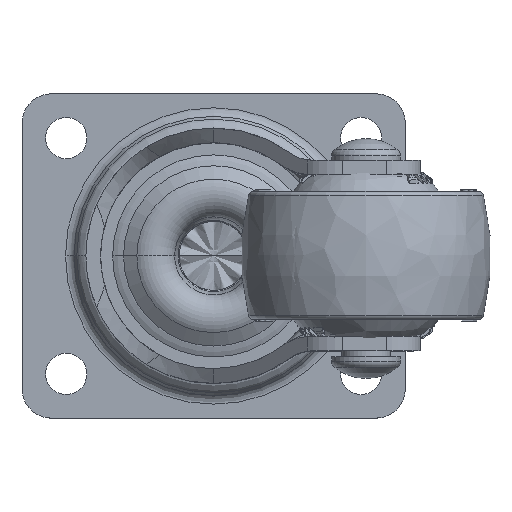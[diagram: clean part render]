
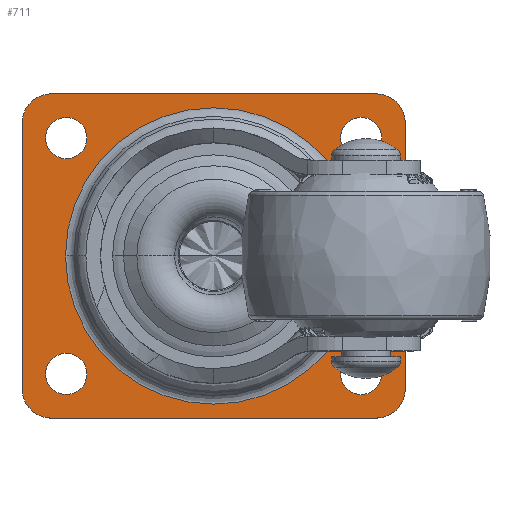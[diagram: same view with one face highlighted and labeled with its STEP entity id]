
A CAD part, top view. The second image highlights one B-rep face of the part: STEP entity #711.
In plain terms, the highlighted planar face has unit normal (0, 0, 1).
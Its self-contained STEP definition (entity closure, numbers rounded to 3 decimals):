
#2=CARTESIAN_POINT('',(15.,-12.,-2.5));
#3=DIRECTION('',(0.,0.,-1.));
#4=DIRECTION('',(1.,0.,0.));
#5=AXIS2_PLACEMENT_3D('',#2,#3,#4);
#7=CARTESIAN_POINT('',(15.,-12.,-2.5));
#8=DIRECTION('',(0.,0.,-1.));
#9=DIRECTION('',(-1.,0.,0.));
#10=AXIS2_PLACEMENT_3D('',#7,#8,#9);
#12=CARTESIAN_POINT('',(15.,12.,-2.5));
#13=DIRECTION('',(0.,0.,-1.));
#14=DIRECTION('',(-1.,0.,0.));
#15=AXIS2_PLACEMENT_3D('',#12,#13,#14);
#17=CARTESIAN_POINT('',(15.,12.,-2.5));
#18=DIRECTION('',(0.,0.,-1.));
#19=DIRECTION('',(1.,0.,0.));
#20=AXIS2_PLACEMENT_3D('',#17,#18,#19);
#22=CARTESIAN_POINT('',(-15.,-12.,-2.5));
#23=DIRECTION('',(0.,0.,-1.));
#24=DIRECTION('',(-1.,0.,0.));
#25=AXIS2_PLACEMENT_3D('',#22,#23,#24);
#27=CARTESIAN_POINT('',(-15.,-12.,-2.5));
#28=DIRECTION('',(0.,0.,-1.));
#29=DIRECTION('',(1.,0.,0.));
#30=AXIS2_PLACEMENT_3D('',#27,#28,#29);
#32=CARTESIAN_POINT('',(-15.,12.,-2.5));
#33=DIRECTION('',(0.,0.,-1.));
#34=DIRECTION('',(1.,0.,0.));
#35=AXIS2_PLACEMENT_3D('',#32,#33,#34);
#37=CARTESIAN_POINT('',(-15.,12.,-2.5));
#38=DIRECTION('',(0.,0.,-1.));
#39=DIRECTION('',(-1.,0.,0.));
#40=AXIS2_PLACEMENT_3D('',#37,#38,#39);
#42=CARTESIAN_POINT('',(-16.5,13.5,-2.5));
#43=DIRECTION('',(0.,0.,1.));
#44=DIRECTION('',(0.,1.,0.));
#45=AXIS2_PLACEMENT_3D('',#42,#43,#44);
#47=DIRECTION('',(-1.,0.,0.));
#48=VECTOR('',#47,33.);
#49=CARTESIAN_POINT('',(16.5,16.5,-2.5));
#50=LINE('',#49,#48);
#51=CARTESIAN_POINT('',(16.5,13.5,-2.5));
#52=DIRECTION('',(0.,0.,1.));
#53=DIRECTION('',(1.,0.,0.));
#54=AXIS2_PLACEMENT_3D('',#51,#52,#53);
#56=DIRECTION('',(0.,1.,0.));
#57=VECTOR('',#56,27.);
#58=CARTESIAN_POINT('',(19.5,-13.5,-2.5));
#59=LINE('',#58,#57);
#60=CARTESIAN_POINT('',(16.5,-13.5,-2.5));
#61=DIRECTION('',(0.,0.,1.));
#62=DIRECTION('',(0.,-1.,0.));
#63=AXIS2_PLACEMENT_3D('',#60,#61,#62);
#65=DIRECTION('',(1.,0.,0.));
#66=VECTOR('',#65,33.);
#67=CARTESIAN_POINT('',(-16.5,-16.5,-2.5));
#68=LINE('',#67,#66);
#69=CARTESIAN_POINT('',(-16.5,-13.5,-2.5));
#70=DIRECTION('',(0.,0.,1.));
#71=DIRECTION('',(-1.,0.,0.));
#72=AXIS2_PLACEMENT_3D('',#69,#70,#71);
#74=DIRECTION('',(0.,-1.,0.));
#75=VECTOR('',#74,27.);
#76=CARTESIAN_POINT('',(-19.5,13.5,-2.5));
#77=LINE('',#76,#75);
#78=CARTESIAN_POINT('',(0.,0.,-2.5));
#79=DIRECTION('',(0.,0.,-1.));
#80=DIRECTION('',(1.,0.,0.));
#81=AXIS2_PLACEMENT_3D('',#78,#79,#80);
#83=CARTESIAN_POINT('',(0.,0.,-2.5));
#84=DIRECTION('',(0.,0.,-1.));
#85=DIRECTION('',(-1.,0.,0.));
#86=AXIS2_PLACEMENT_3D('',#83,#84,#85);
#546=CARTESIAN_POINT('',(17.1,-12.,-2.5));
#547=CARTESIAN_POINT('',(12.9,-12.,-2.5));
#548=VERTEX_POINT('',#546);
#549=VERTEX_POINT('',#547);
#550=CARTESIAN_POINT('',(12.9,12.,-2.5));
#551=CARTESIAN_POINT('',(17.1,12.,-2.5));
#552=VERTEX_POINT('',#550);
#553=VERTEX_POINT('',#551);
#554=CARTESIAN_POINT('',(-17.1,-12.,-2.5));
#555=CARTESIAN_POINT('',(-12.9,-12.,-2.5));
#556=VERTEX_POINT('',#554);
#557=VERTEX_POINT('',#555);
#558=CARTESIAN_POINT('',(-12.9,12.,-2.5));
#559=CARTESIAN_POINT('',(-17.1,12.,-2.5));
#560=VERTEX_POINT('',#558);
#561=VERTEX_POINT('',#559);
#602=CARTESIAN_POINT('',(-16.5,16.5,-2.5));
#603=VERTEX_POINT('',#602);
#604=CARTESIAN_POINT('',(-19.5,13.5,-2.5));
#605=VERTEX_POINT('',#604);
#610=CARTESIAN_POINT('',(19.5,13.5,-2.5));
#611=VERTEX_POINT('',#610);
#612=CARTESIAN_POINT('',(16.5,16.5,-2.5));
#613=VERTEX_POINT('',#612);
#618=CARTESIAN_POINT('',(16.5,-16.5,-2.5));
#619=VERTEX_POINT('',#618);
#620=CARTESIAN_POINT('',(19.5,-13.5,-2.5));
#621=VERTEX_POINT('',#620);
#626=CARTESIAN_POINT('',(-19.5,-13.5,-2.5));
#627=VERTEX_POINT('',#626);
#628=CARTESIAN_POINT('',(-16.5,-16.5,-2.5));
#629=VERTEX_POINT('',#628);
#654=CARTESIAN_POINT('',(15.077,0.,-2.5));
#655=CARTESIAN_POINT('',(-15.077,0.,-2.5));
#656=VERTEX_POINT('',#654);
#657=VERTEX_POINT('',#655);
#658=CARTESIAN_POINT('',(0.,0.,-2.5));
#659=DIRECTION('',(0.,0.,1.));
#660=DIRECTION('',(-1.,0.,0.));
#661=AXIS2_PLACEMENT_3D('',#658,#659,#660);
#662=PLANE('',#661);
#664=ORIENTED_EDGE('',*,*,#663,.F.);
#666=ORIENTED_EDGE('',*,*,#665,.F.);
#668=ORIENTED_EDGE('',*,*,#667,.F.);
#670=ORIENTED_EDGE('',*,*,#669,.F.);
#672=ORIENTED_EDGE('',*,*,#671,.F.);
#674=ORIENTED_EDGE('',*,*,#673,.F.);
#676=ORIENTED_EDGE('',*,*,#675,.F.);
#678=ORIENTED_EDGE('',*,*,#677,.F.);
#679=EDGE_LOOP('',(#664,#666,#668,#670,#672,#674,#676,#678));
#680=FACE_OUTER_BOUND('',#679,.F.);
#682=ORIENTED_EDGE('',*,*,#681,.F.);
#684=ORIENTED_EDGE('',*,*,#683,.F.);
#685=EDGE_LOOP('',(#682,#684));
#686=FACE_BOUND('',#685,.F.);
#688=ORIENTED_EDGE('',*,*,#687,.F.);
#690=ORIENTED_EDGE('',*,*,#689,.F.);
#691=EDGE_LOOP('',(#688,#690));
#692=FACE_BOUND('',#691,.F.);
#694=ORIENTED_EDGE('',*,*,#693,.F.);
#696=ORIENTED_EDGE('',*,*,#695,.F.);
#697=EDGE_LOOP('',(#694,#696));
#698=FACE_BOUND('',#697,.F.);
#700=ORIENTED_EDGE('',*,*,#699,.F.);
#702=ORIENTED_EDGE('',*,*,#701,.F.);
#703=EDGE_LOOP('',(#700,#702));
#704=FACE_BOUND('',#703,.F.);
#706=ORIENTED_EDGE('',*,*,#705,.F.);
#708=ORIENTED_EDGE('',*,*,#707,.F.);
#709=EDGE_LOOP('',(#706,#708));
#710=FACE_BOUND('',#709,.F.);
#6=CIRCLE('',#5,2.1);
#11=CIRCLE('',#10,2.1);
#16=CIRCLE('',#15,2.1);
#21=CIRCLE('',#20,2.1);
#26=CIRCLE('',#25,2.1);
#31=CIRCLE('',#30,2.1);
#36=CIRCLE('',#35,2.1);
#41=CIRCLE('',#40,2.1);
#46=CIRCLE('',#45,3.);
#55=CIRCLE('',#54,3.);
#64=CIRCLE('',#63,3.);
#73=CIRCLE('',#72,3.);
#82=CIRCLE('',#81,15.077);
#87=CIRCLE('',#86,15.077);
#663=EDGE_CURVE('',#603,#605,#46,.T.);
#665=EDGE_CURVE('',#613,#603,#50,.T.);
#667=EDGE_CURVE('',#611,#613,#55,.T.);
#669=EDGE_CURVE('',#621,#611,#59,.T.);
#671=EDGE_CURVE('',#619,#621,#64,.T.);
#673=EDGE_CURVE('',#629,#619,#68,.T.);
#675=EDGE_CURVE('',#627,#629,#73,.T.);
#677=EDGE_CURVE('',#605,#627,#77,.T.);
#681=EDGE_CURVE('',#552,#553,#16,.T.);
#683=EDGE_CURVE('',#553,#552,#21,.T.);
#687=EDGE_CURVE('',#556,#557,#26,.T.);
#689=EDGE_CURVE('',#557,#556,#31,.T.);
#693=EDGE_CURVE('',#560,#561,#36,.T.);
#695=EDGE_CURVE('',#561,#560,#41,.T.);
#699=EDGE_CURVE('',#548,#549,#6,.T.);
#701=EDGE_CURVE('',#549,#548,#11,.T.);
#705=EDGE_CURVE('',#656,#657,#82,.T.);
#707=EDGE_CURVE('',#657,#656,#87,.T.);
#711=ADVANCED_FACE('',(#680,#686,#692,#698,#704,#710),#662,.T.);
